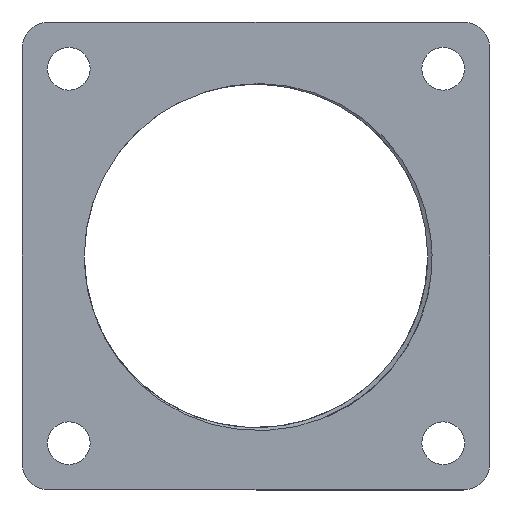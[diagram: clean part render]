
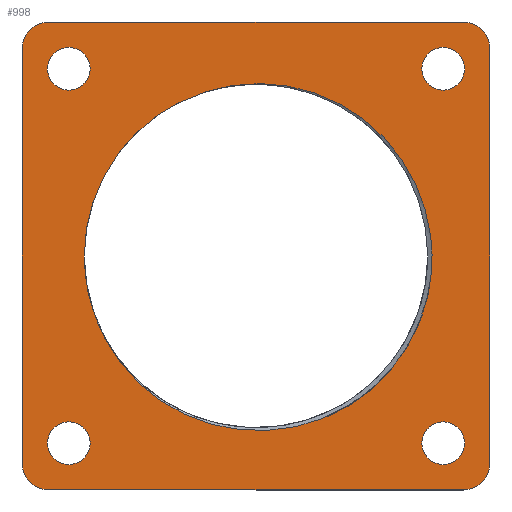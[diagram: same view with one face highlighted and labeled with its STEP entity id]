
A CAD part, front view. The second image highlights one B-rep face of the part: STEP entity #998.
In plain terms, the highlighted planar face has unit normal (0, -1, 0).
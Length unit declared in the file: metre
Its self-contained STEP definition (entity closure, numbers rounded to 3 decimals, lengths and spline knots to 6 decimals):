
#14=PLANE('',#1067);
#58=B_SPLINE_CURVE_WITH_KNOTS('',3,(#1788,#1789,#1790,#1791,#1792,#1793,
#1794,#1795),.UNSPECIFIED.,.F.,.F.,(4,1,1,1,1,4),(0.,0.006432,
0.012864,0.01608,0.019296,0.025728),
 .UNSPECIFIED.);
#59=B_SPLINE_CURVE_WITH_KNOTS('',3,(#1799,#1800,#1801,#1802,#1803,#1804,
#1805,#1806,#1807),.UNSPECIFIED.,.F.,.F.,(4,1,1,1,1,1,4),(0.,
0.006413,0.009619,0.012825,0.016032,
0.019238,0.025651),.UNSPECIFIED.);
#83=LINE('',#1771,#169);
#84=LINE('',#1775,#170);
#85=LINE('',#1779,#171);
#86=LINE('',#1783,#172);
#169=VECTOR('',#1204,1.);
#170=VECTOR('',#1207,1.);
#171=VECTOR('',#1210,1.);
#172=VECTOR('',#1213,1.);
#294=ORIENTED_EDGE('',*,*,#585,.T.);
#295=ORIENTED_EDGE('',*,*,#586,.T.);
#296=ORIENTED_EDGE('',*,*,#587,.T.);
#297=ORIENTED_EDGE('',*,*,#588,.T.);
#298=ORIENTED_EDGE('',*,*,#589,.T.);
#299=ORIENTED_EDGE('',*,*,#590,.T.);
#300=ORIENTED_EDGE('',*,*,#591,.T.);
#301=ORIENTED_EDGE('',*,*,#592,.T.);
#302=ORIENTED_EDGE('',*,*,#593,.T.);
#303=ORIENTED_EDGE('',*,*,#549,.T.);
#304=ORIENTED_EDGE('',*,*,#594,.T.);
#305=ORIENTED_EDGE('',*,*,#545,.T.);
#306=ORIENTED_EDGE('',*,*,#595,.T.);
#307=ORIENTED_EDGE('',*,*,#541,.T.);
#308=ORIENTED_EDGE('',*,*,#596,.T.);
#309=ORIENTED_EDGE('',*,*,#537,.T.);
#310=ORIENTED_EDGE('',*,*,#597,.T.);
#311=ORIENTED_EDGE('',*,*,#598,.T.);
#312=ORIENTED_EDGE('',*,*,#574,.T.);
#313=ORIENTED_EDGE('',*,*,#599,.T.);
#314=ORIENTED_EDGE('',*,*,#600,.T.);
#537=EDGE_CURVE('NONE',#687,#688,#787,.T.);
#541=EDGE_CURVE('NONE',#691,#692,#789,.T.);
#545=EDGE_CURVE('NONE',#695,#696,#791,.T.);
#549=EDGE_CURVE('NONE',#699,#700,#793,.T.);
#574=EDGE_CURVE('NONE',#724,#723,#796,.T.);
#585=EDGE_CURVE('NONE',#726,#727,#797,.F.);
#586=EDGE_CURVE('NONE',#727,#728,#83,.F.);
#587=EDGE_CURVE('NONE',#728,#729,#798,.F.);
#588=EDGE_CURVE('NONE',#729,#730,#84,.T.);
#589=EDGE_CURVE('NONE',#730,#731,#799,.F.);
#590=EDGE_CURVE('NONE',#731,#732,#85,.T.);
#591=EDGE_CURVE('NONE',#732,#733,#800,.F.);
#592=EDGE_CURVE('NONE',#733,#726,#86,.F.);
#593=EDGE_CURVE('NONE',#700,#699,#801,.T.);
#594=EDGE_CURVE('NONE',#696,#695,#802,.T.);
#595=EDGE_CURVE('NONE',#692,#691,#803,.T.);
#596=EDGE_CURVE('NONE',#688,#687,#804,.T.);
#597=EDGE_CURVE('NONE',#734,#735,#58,.T.);
#598=EDGE_CURVE('NONE',#735,#724,#805,.T.);
#599=EDGE_CURVE('NONE',#723,#736,#59,.T.);
#600=EDGE_CURVE('NONE',#736,#734,#806,.T.);
#687=VERTEX_POINT('',#1401);
#688=VERTEX_POINT('',#1402);
#691=VERTEX_POINT('',#1410);
#692=VERTEX_POINT('',#1411);
#695=VERTEX_POINT('',#1419);
#696=VERTEX_POINT('',#1420);
#699=VERTEX_POINT('',#1428);
#700=VERTEX_POINT('',#1429);
#723=VERTEX_POINT('',#1623);
#724=VERTEX_POINT('',#1625);
#726=VERTEX_POINT('',#1769);
#727=VERTEX_POINT('',#1770);
#728=VERTEX_POINT('',#1772);
#729=VERTEX_POINT('',#1774);
#730=VERTEX_POINT('',#1776);
#731=VERTEX_POINT('',#1778);
#732=VERTEX_POINT('',#1780);
#733=VERTEX_POINT('',#1782);
#734=VERTEX_POINT('',#1796);
#735=VERTEX_POINT('',#1797);
#736=VERTEX_POINT('',#1808);
#787=CIRCLE('',#1044,0.0016);
#789=CIRCLE('',#1047,0.0016);
#791=CIRCLE('',#1050,0.0016);
#793=CIRCLE('',#1053,0.0016);
#796=CIRCLE('',#1062,0.01284);
#797=CIRCLE('',#1068,0.002);
#798=CIRCLE('',#1069,0.002);
#799=CIRCLE('',#1070,0.002);
#800=CIRCLE('',#1071,0.002);
#801=CIRCLE('',#1072,0.0016);
#802=CIRCLE('',#1073,0.0016);
#803=CIRCLE('',#1074,0.0016);
#804=CIRCLE('',#1075,0.0016);
#805=CIRCLE('',#1076,0.01284);
#806=CIRCLE('',#1077,0.013184);
#838=EDGE_LOOP('',(#294,#295,#296,#297,#298,#299,#300,#301));
#839=EDGE_LOOP('',(#302,#303));
#840=EDGE_LOOP('',(#304,#305));
#841=EDGE_LOOP('',(#306,#307));
#842=EDGE_LOOP('',(#308,#309));
#843=EDGE_LOOP('',(#310,#311,#312,#313,#314));
#904=FACE_BOUND('',#838,.T.);
#905=FACE_BOUND('',#839,.T.);
#906=FACE_BOUND('',#840,.T.);
#907=FACE_BOUND('',#841,.T.);
#908=FACE_BOUND('',#842,.T.);
#909=FACE_BOUND('',#843,.T.);
#998=ADVANCED_FACE('NONE',(#904,#905,#906,#907,#908,#909),#14,.F.);
#1044=AXIS2_PLACEMENT_3D('',#1400,#1136,#1137);
#1047=AXIS2_PLACEMENT_3D('',#1409,#1144,#1145);
#1050=AXIS2_PLACEMENT_3D('',#1418,#1152,#1153);
#1053=AXIS2_PLACEMENT_3D('',#1427,#1160,#1161);
#1062=AXIS2_PLACEMENT_3D('',#1624,#1189,#1190);
#1067=AXIS2_PLACEMENT_3D('',#1767,#1200,#1201);
#1068=AXIS2_PLACEMENT_3D('',#1768,#1202,#1203);
#1069=AXIS2_PLACEMENT_3D('',#1773,#1205,#1206);
#1070=AXIS2_PLACEMENT_3D('',#1777,#1208,#1209);
#1071=AXIS2_PLACEMENT_3D('',#1781,#1211,#1212);
#1072=AXIS2_PLACEMENT_3D('',#1784,#1214,#1215);
#1073=AXIS2_PLACEMENT_3D('',#1785,#1216,#1217);
#1074=AXIS2_PLACEMENT_3D('',#1786,#1218,#1219);
#1075=AXIS2_PLACEMENT_3D('',#1787,#1220,#1221);
#1076=AXIS2_PLACEMENT_3D('',#1798,#1222,#1223);
#1077=AXIS2_PLACEMENT_3D('',#1809,#1224,#1225);
#1136=DIRECTION('',(0.,1.,0.));
#1137=DIRECTION('',(-1.,0.,0.));
#1144=DIRECTION('',(0.,1.,0.));
#1145=DIRECTION('',(-1.,0.,0.));
#1152=DIRECTION('',(0.,1.,0.));
#1153=DIRECTION('',(-1.,0.,0.));
#1160=DIRECTION('',(0.,1.,0.));
#1161=DIRECTION('',(-1.,0.,0.));
#1189=DIRECTION('',(0.,1.,0.));
#1190=DIRECTION('',(-1.,0.,0.));
#1200=DIRECTION('',(0.,1.,0.));
#1201=DIRECTION('',(-1.,0.,0.));
#1202=DIRECTION('',(0.,1.,0.));
#1203=DIRECTION('',(-1.,0.,0.));
#1204=DIRECTION('',(-1.,0.,0.));
#1205=DIRECTION('',(0.,1.,0.));
#1206=DIRECTION('',(-1.,0.,0.));
#1207=DIRECTION('',(0.,0.,1.));
#1208=DIRECTION('',(0.,1.,0.));
#1209=DIRECTION('',(-1.,0.,0.));
#1210=DIRECTION('',(-1.,0.,0.));
#1211=DIRECTION('',(0.,1.,0.));
#1212=DIRECTION('',(-1.,0.,0.));
#1213=DIRECTION('',(0.,0.,1.));
#1214=DIRECTION('',(0.,1.,0.));
#1215=DIRECTION('',(-1.,0.,0.));
#1216=DIRECTION('',(0.,1.,0.));
#1217=DIRECTION('',(-1.,0.,0.));
#1218=DIRECTION('',(0.,1.,0.));
#1219=DIRECTION('',(-1.,0.,0.));
#1220=DIRECTION('',(0.,1.,0.));
#1221=DIRECTION('',(-1.,0.,0.));
#1222=DIRECTION('',(0.,1.,0.));
#1223=DIRECTION('',(-1.,0.,0.));
#1224=DIRECTION('',(0.,1.,0.));
#1225=DIRECTION('',(-1.,0.,0.));
#1400=CARTESIAN_POINT('',(-0.005578,-0.007,0.031266));
#1401=CARTESIAN_POINT('',(-0.003978,-0.007,0.031266));
#1402=CARTESIAN_POINT('',(-0.007178,-0.007,0.031266));
#1409=CARTESIAN_POINT('',(0.022422,-0.007,0.003266));
#1410=CARTESIAN_POINT('',(0.024022,-0.007,0.003266));
#1411=CARTESIAN_POINT('',(0.020822,-0.007,0.003266));
#1418=CARTESIAN_POINT('',(-0.005578,-0.007,0.003266));
#1419=CARTESIAN_POINT('',(-0.003978,-0.007,0.003266));
#1420=CARTESIAN_POINT('',(-0.007178,-0.007,0.003266));
#1427=CARTESIAN_POINT('',(0.022422,-0.007,0.031266));
#1428=CARTESIAN_POINT('',(0.024022,-0.007,0.031266));
#1429=CARTESIAN_POINT('',(0.020822,-0.007,0.031266));
#1623=CARTESIAN_POINT('',(0.00463,-0.007,0.029534));
#1624=CARTESIAN_POINT('',(0.008422,-0.007,0.017266));
#1625=CARTESIAN_POINT('',(-0.004418,-0.007,0.017266));
#1767=CARTESIAN_POINT('',(-0.007078,-0.007,0.001766));
#1768=CARTESIAN_POINT('',(-0.007078,-0.007,0.001766));
#1769=CARTESIAN_POINT('',(-0.009078,-0.007,0.001766));
#1770=CARTESIAN_POINT('',(-0.007078,-0.007,-0.000234));
#1771=CARTESIAN_POINT('',(-0.007078,-0.007,-0.000234));
#1772=CARTESIAN_POINT('',(0.023922,-0.007,-0.000234));
#1773=CARTESIAN_POINT('',(0.023922,-0.007,0.001766));
#1774=CARTESIAN_POINT('',(0.025922,-0.007,0.001766));
#1775=CARTESIAN_POINT('',(0.025922,-0.007,0.001766));
#1776=CARTESIAN_POINT('',(0.025922,-0.007,0.032766));
#1777=CARTESIAN_POINT('',(0.023922,-0.007,0.032766));
#1778=CARTESIAN_POINT('',(0.023922,-0.007,0.034766));
#1779=CARTESIAN_POINT('',(-0.007078,-0.007,0.034766));
#1780=CARTESIAN_POINT('',(-0.007078,-0.007,0.034766));
#1781=CARTESIAN_POINT('',(-0.007078,-0.007,0.032766));
#1782=CARTESIAN_POINT('',(-0.009078,-0.007,0.032766));
#1783=CARTESIAN_POINT('',(-0.009078,-0.007,0.001766));
#1784=CARTESIAN_POINT('',(0.022422,-0.007,0.031266));
#1785=CARTESIAN_POINT('',(-0.005578,-0.007,0.003266));
#1786=CARTESIAN_POINT('',(0.022422,-0.007,0.003266));
#1787=CARTESIAN_POINT('',(-0.005578,-0.007,0.031266));
#1788=CARTESIAN_POINT('',(0.017027,-0.007,0.007278));
#1789=CARTESIAN_POINT('',(0.015384,-0.007,0.0059));
#1790=CARTESIAN_POINT('',(0.011456,-0.007,0.003975));
#1791=CARTESIAN_POINT('',(0.005964,-0.007,0.004163));
#1792=CARTESIAN_POINT('',(0.00202,-0.007,0.005833));
#1793=CARTESIAN_POINT('',(-0.001427,-0.007,0.008437));
#1794=CARTESIAN_POINT('',(-0.003136,-0.007,0.011211));
#1795=CARTESIAN_POINT('',(-0.003777,-0.007,0.013259));
#1796=CARTESIAN_POINT('',(0.017027,-0.007,0.007278));
#1797=CARTESIAN_POINT('',(-0.003777,-0.007,0.013259));
#1798=CARTESIAN_POINT('',(0.008422,-0.007,0.017266));
#1799=CARTESIAN_POINT('',(0.00463,-0.007,0.029534));
#1800=CARTESIAN_POINT('',(0.006665,-0.007,0.030193));
#1801=CARTESIAN_POINT('',(0.009931,-0.007,0.0304));
#1802=CARTESIAN_POINT('',(0.014009,-0.007,0.029122));
#1803=CARTESIAN_POINT('',(0.016772,-0.007,0.027416));
#1804=CARTESIAN_POINT('',(0.018994,-0.007,0.025142));
#1805=CARTESIAN_POINT('',(0.021169,-0.007,0.021463));
#1806=CARTESIAN_POINT('',(0.021717,-0.007,0.018216));
#1807=CARTESIAN_POINT('',(0.021552,-0.007,0.016083));
#1808=CARTESIAN_POINT('',(0.021552,-0.007,0.016083));
#1809=CARTESIAN_POINT('',(0.008422,-0.007,0.017266));
